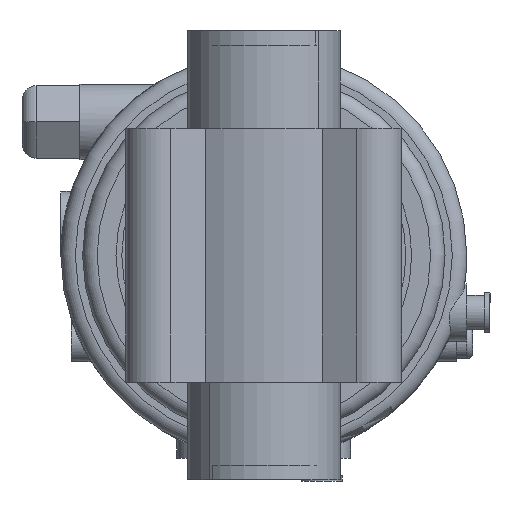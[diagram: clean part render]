
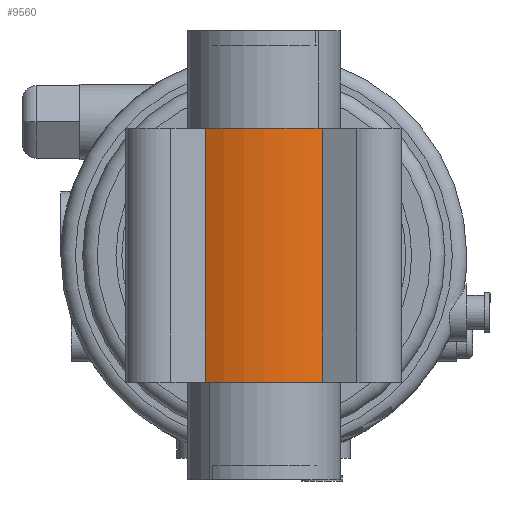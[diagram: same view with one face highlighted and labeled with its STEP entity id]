
A CAD part, front view. The second image highlights one B-rep face of the part: STEP entity #9560.
In plain terms, the highlighted cylindrical face has radius 45.4 mm (diameter 90.8 mm), a partial arc.
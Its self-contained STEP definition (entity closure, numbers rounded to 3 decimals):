
#3080=CARTESIAN_POINT('',(12.,-43.017,-14.515));
#3090=VERTEX_POINT('',#3080);
#3120=CARTESIAN_POINT('',(12.,-43.017,-14.515));
#3130=DIRECTION('',(-1.,0.,0.));
#3140=VECTOR('',#3130,1.);
#3150=LINE('',#3120,#3140);
#3160=CARTESIAN_POINT('',(-75.5,-43.017,-14.515));
#3170=VERTEX_POINT('',#3160);
#3180=EDGE_CURVE('',#3090,#3170,#3150,.T.);
#5200=CARTESIAN_POINT('',(-75.5,0.,0.));
#5210=DIRECTION('',(-1.,0.,0.));
#5220=DIRECTION('',(0.,0.,1.));
#5230=AXIS2_PLACEMENT_3D('',#5200,#5210,#5220);
#5240=CIRCLE('',#5230,45.4);
#5250=CARTESIAN_POINT('',(-75.5,-14.515,-43.017));
#5260=VERTEX_POINT('',#5250);
#5270=EDGE_CURVE('',#5260,#3170,#5240,.T.);
#7130=CARTESIAN_POINT('',(12.,-14.515,-43.017));
#7140=VERTEX_POINT('',#7130);
#7170=CARTESIAN_POINT('',(12.,0.,0.));
#7180=DIRECTION('',(-1.,0.,0.));
#7190=DIRECTION('',(0.,0.,1.));
#7200=AXIS2_PLACEMENT_3D('',#7170,#7180,#7190);
#7210=CIRCLE('',#7200,45.4);
#7220=EDGE_CURVE('',#7140,#3090,#7210,.T.);
#9120=CARTESIAN_POINT('',(12.,-14.515,-43.017));
#9130=DIRECTION('',(-1.,0.,0.));
#9140=VECTOR('',#9130,1.);
#9150=LINE('',#9120,#9140);
#9160=EDGE_CURVE('',#7140,#5260,#9150,.T.);
#9450=CARTESIAN_POINT('',(110.,0.,0.));
#9460=DIRECTION('',(-1.,0.,0.));
#9470=DIRECTION('',(0.,0.,1.));
#9480=AXIS2_PLACEMENT_3D('',#9450,#9460,#9470);
#9490=CYLINDRICAL_SURFACE('',#9480,45.4);
#9500=ORIENTED_EDGE('',*,*,#5270,.F.);
#9510=ORIENTED_EDGE('',*,*,#3180,.T.);
#9520=ORIENTED_EDGE('',*,*,#7220,.T.);
#9530=ORIENTED_EDGE('',*,*,#9160,.F.);
#9540=EDGE_LOOP('',(#9530,#9520,#9510,#9500));
#9550=FACE_OUTER_BOUND('',#9540,.T.);
#9560=ADVANCED_FACE('',(#9550),#9490,.T.);
